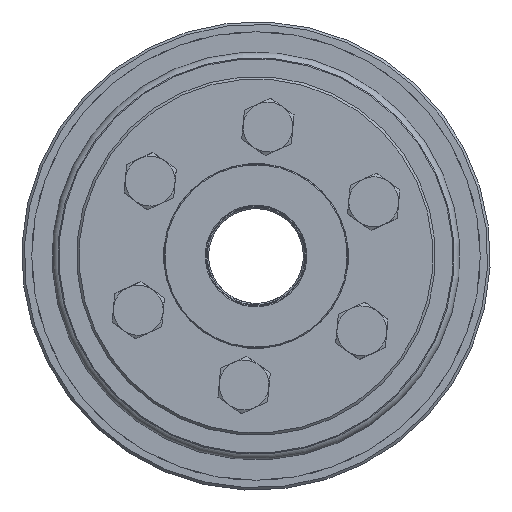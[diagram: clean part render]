
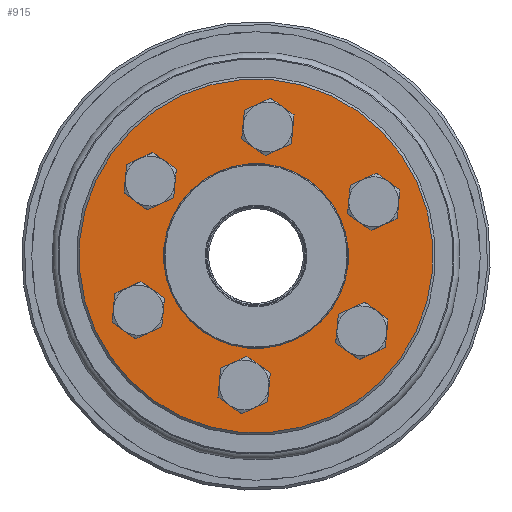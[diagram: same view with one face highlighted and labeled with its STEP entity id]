
A CAD part, left-side view. The second image highlights one B-rep face of the part: STEP entity #915.
In plain terms, the highlighted planar face has unit normal (-1, 0, 0).
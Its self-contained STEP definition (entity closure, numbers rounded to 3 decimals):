
#915 = ADVANCED_FACE( 'NONE', ( #1820, #1821, #1822, #1823, #1824, #1825, #1826, #1827 ), #1828, .F. );
#1820 = FACE_OUTER_BOUND( '', #2851, .T. );
#1821 = FACE_BOUND( '', #2852, .T. );
#1822 = FACE_BOUND( '', #2853, .T. );
#1823 = FACE_BOUND( '', #2854, .T. );
#1824 = FACE_BOUND( '', #2855, .T. );
#1825 = FACE_BOUND( '', #2856, .T. );
#1826 = FACE_BOUND( '', #2857, .T. );
#1827 = FACE_BOUND( '', #2858, .T. );
#1828 = PLANE( '', #2859 );
#2851 = EDGE_LOOP( '', ( #4138 ) );
#2852 = EDGE_LOOP( '', ( #4139 ) );
#2853 = EDGE_LOOP( '', ( #4140 ) );
#2854 = EDGE_LOOP( '', ( #4141 ) );
#2855 = EDGE_LOOP( '', ( #4142 ) );
#2856 = EDGE_LOOP( '', ( #4143 ) );
#2857 = EDGE_LOOP( '', ( #4144 ) );
#2858 = EDGE_LOOP( '', ( #4145 ) );
#2859 = AXIS2_PLACEMENT_3D( '', #4146, #4147, #4148 );
#4138 = ORIENTED_EDGE( '', *, *, #5026, .T. );
#4139 = ORIENTED_EDGE( '', *, *, #5048, .T. );
#4140 = ORIENTED_EDGE( '', *, *, #5231, .T. );
#4141 = ORIENTED_EDGE( '', *, *, #5268, .T. );
#4142 = ORIENTED_EDGE( '', *, *, #5269, .T. );
#4143 = ORIENTED_EDGE( '', *, *, #5270, .T. );
#4144 = ORIENTED_EDGE( '', *, *, #5166, .T. );
#4145 = ORIENTED_EDGE( '', *, *, #5148, .F. );
#4146 = CARTESIAN_POINT( '', ( 0., 18.5, 0. ) );
#4147 = DIRECTION( '', ( 1., 0., 0. ) );
#4148 = DIRECTION( '', ( 0., 1., 0. ) );
#5026 = EDGE_CURVE( 'NONE', #5674, #5674, #5675, .T. );
#5048 = EDGE_CURVE( 'NONE', #5709, #5709, #5710, .T. );
#5148 = EDGE_CURVE( 'NONE', #5864, #5864, #5865, .T. );
#5166 = EDGE_CURVE( 'NONE', #5888, #5888, #5889, .T. );
#5231 = EDGE_CURVE( 'NONE', #5984, #5984, #5985, .T. );
#5268 = EDGE_CURVE( 'NONE', #6044, #6044, #6045, .T. );
#5269 = EDGE_CURVE( 'NONE', #6046, #6046, #6047, .T. );
#5270 = EDGE_CURVE( 'NONE', #6048, #6048, #6049, .T. );
#5674 = VERTEX_POINT( '', #6652 );
#5675 = CIRCLE( '', #6653, 35.5 );
#5709 = VERTEX_POINT( '', #6689 );
#5710 = CIRCLE( '', #6690, 3.3 );
#5864 = VERTEX_POINT( '', #6921 );
#5865 = CIRCLE( '', #6922, 18.5 );
#5888 = VERTEX_POINT( '', #6947 );
#5889 = CIRCLE( '', #6948, 3.3 );
#5984 = VERTEX_POINT( '', #7078 );
#5985 = CIRCLE( '', #7079, 3.3 );
#6044 = VERTEX_POINT( '', #7267 );
#6045 = CIRCLE( '', #7268, 3.3 );
#6046 = VERTEX_POINT( '', #7269 );
#6047 = CIRCLE( '', #7270, 3.3 );
#6048 = VERTEX_POINT( '', #7271 );
#6049 = CIRCLE( '', #7272, 3.3 );
#6652 = CARTESIAN_POINT( '', ( 0., 0., -35.5 ) );
#6653 = AXIS2_PLACEMENT_3D( '', #7830, #7831, #7832 );
#6689 = CARTESIAN_POINT( '', ( 0., 13., 19.217 ) );
#6690 = AXIS2_PLACEMENT_3D( '', #7868, #7869, #7870 );
#6921 = CARTESIAN_POINT( '', ( 0., 0., 18.5 ) );
#6922 = AXIS2_PLACEMENT_3D( '', #8023, #8024, #8025 );
#6947 = CARTESIAN_POINT( '', ( 0., 26., -3.3 ) );
#6948 = AXIS2_PLACEMENT_3D( '', #8046, #8047, #8048 );
#7078 = CARTESIAN_POINT( '', ( 0., -13., 19.217 ) );
#7079 = AXIS2_PLACEMENT_3D( '', #8132, #8133, #8134 );
#7267 = CARTESIAN_POINT( '', ( 0., -26., -3.3 ) );
#7268 = AXIS2_PLACEMENT_3D( '', #8192, #8193, #8194 );
#7269 = CARTESIAN_POINT( '', ( 0., -13., -25.817 ) );
#7270 = AXIS2_PLACEMENT_3D( '', #8195, #8196, #8197 );
#7271 = CARTESIAN_POINT( '', ( 0., 13., -25.817 ) );
#7272 = AXIS2_PLACEMENT_3D( '', #8198, #8199, #8200 );
#7830 = CARTESIAN_POINT( '', ( 0., 0., 0. ) );
#7831 = DIRECTION( '', ( -1., 0., 0. ) );
#7832 = DIRECTION( '', ( 0., 0., -1. ) );
#7868 = CARTESIAN_POINT( '', ( 0., 13., 22.517 ) );
#7869 = DIRECTION( '', ( 1., 0., 0. ) );
#7870 = DIRECTION( '', ( 0., 0., -1. ) );
#8023 = CARTESIAN_POINT( '', ( 0., 0., 0. ) );
#8024 = DIRECTION( '', ( -1., 0., 0. ) );
#8025 = DIRECTION( '', ( 0., 0., 1. ) );
#8046 = CARTESIAN_POINT( '', ( 0., 26., 0. ) );
#8047 = DIRECTION( '', ( 1., 0., 0. ) );
#8048 = DIRECTION( '', ( 0., 0., -1. ) );
#8132 = CARTESIAN_POINT( '', ( 0., -13., 22.517 ) );
#8133 = DIRECTION( '', ( 1., 0., 0. ) );
#8134 = DIRECTION( '', ( 0., 0., -1. ) );
#8192 = CARTESIAN_POINT( '', ( 0., -26., 0. ) );
#8193 = DIRECTION( '', ( 1., 0., 0. ) );
#8194 = DIRECTION( '', ( 0., 0., -1. ) );
#8195 = CARTESIAN_POINT( '', ( 0., -13., -22.517 ) );
#8196 = DIRECTION( '', ( 1., 0., 0. ) );
#8197 = DIRECTION( '', ( 0., 0., -1. ) );
#8198 = CARTESIAN_POINT( '', ( 0., 13., -22.517 ) );
#8199 = DIRECTION( '', ( 1., 0., 0. ) );
#8200 = DIRECTION( '', ( 0., 0., -1. ) );
